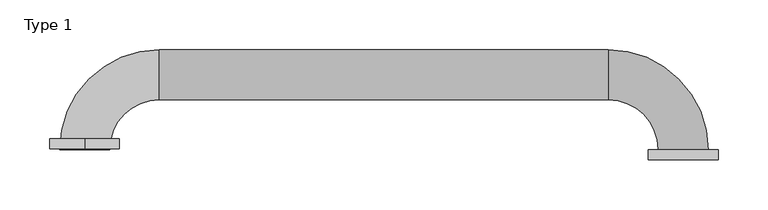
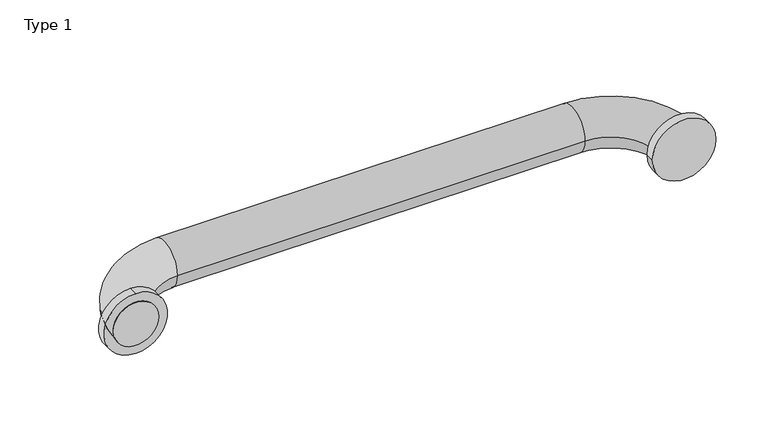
"""IFC4 building model written with IfcOpenShell, lengths in millimetres: proxy geometry, BIMHealth-Grab_Rail_Horizontal-LOD2A-v1 : Type 1."""

from ifc_helpers import new_model, si_unit, point, frame, frame_2d, origin, place, context, project, spatial, circle_curve, ellipse_curve, trimmed, segment, composite_curve, outline, extrude, source, transform, mapped, element, save
from ifc_brep_helpers import plane_surface, cylinder_surface, revolved_surface, advanced_brep


def type_1_5029713c(model_context):
    return source(origin(), model_context, "Body", "SolidModel", [
        advanced_brep(
        [(-100.0, 160.0, 680.0), (-100.0, 110.0, 680.0), (350.0, 110.0, 680.0), (350.0, 160.0, 680.0), (-150.0, 60.0, 680.0), (-200.0, 60.0, 680.0), (400.0, 60.0, 680.0), (450.0, 60.0, 680.0)],
        [
            (0, 1, circle_curve(frame((-100.0, 135.0, 680.0), z_axis=(1.0, 0.0, 0.0), x_axis=(0.0, 1.0, 0.0)), 25.0)),
            (1, 2),
            (2, 3, circle_curve(frame((350.0, 135.0, 680.0), z_axis=(-1.0, 0.0, 0.0), x_axis=(0.0, 1.0, 0.0)), 25.0)),
            (3, 0),
            (1, 0, circle_curve(frame((-100.0, 135.0, 680.0), z_axis=(1.0, 0.0, 0.0), x_axis=(0.0, 1.0, 0.0)), 25.0)),
            (3, 2, circle_curve(frame((350.0, 135.0, 680.0), z_axis=(-1.0, 0.0, 0.0), x_axis=(0.0, 1.0, 0.0)), 25.0)),
            (4, 5, circle_curve(frame((-175.0, 60.0, 680.0), z_axis=(0.0, -1.0, 0.0), x_axis=(-1.0, 0.0, 0.0)), 25.0)),
            (5, 4, circle_curve(frame((-175.0, 60.0, 680.0), z_axis=(0.0, -1.0, 0.0), x_axis=(-1.0, 0.0, 0.0)), 25.0)),
            (0, 5, circle_curve(frame((-100.0, 60.0, 680.0), z_axis=(0.0, 0.0, 1.0), x_axis=(-1.0, 0.0, 0.0)), 100.0)),
            (4, 1, circle_curve(frame((-100.0, 60.0, 680.0), z_axis=(0.0, 0.0, -1.0), x_axis=(-1.0, 0.0, 0.0)), 50.0)),
            (6, 7, circle_curve(frame((425.0, 60.0, 680.0), z_axis=(0.0, -1.0, 0.0), x_axis=(1.0, 0.0, 0.0)), 25.0)),
            (7, 6, circle_curve(frame((425.0, 60.0, 680.0), z_axis=(0.0, -1.0, 0.0), x_axis=(1.0, 0.0, 0.0)), 25.0)),
            (7, 3, circle_curve(frame((350.0, 60.0, 680.0), z_axis=(0.0, 0.0, 1.0), x_axis=(0.0, 1.0, 0.0)), 100.0)),
            (2, 6, circle_curve(frame((350.0, 60.0, 680.0), z_axis=(0.0, 0.0, -1.0), x_axis=(0.0, 1.0, 0.0)), 50.0)),
        ],
        [
            cylinder_surface(frame((-100.0, 135.0, 680.0), z_axis=(-1.0, 0.0, 0.0), x_axis=(0.0, 1.0, 0.0)), 25.0),
            plane_surface(frame((-175.0, 60.0, 680.0), z_axis=(0.0, -1.0, 0.0), x_axis=(0.0, 0.0, 1.0))),
            revolved_surface(trimmed(ellipse_curve(frame((-175.0, 60.0, 680.0), z_axis=(0.0, -1.0, 0.0), x_axis=(-1.0, 0.0, 0.0)), 25.0, 25.0), [point((-150.0, 60.0, 680.0))], [point((-200.0, 60.0, 680.0))], True, "CARTESIAN"), (-100.0, 60.0, 680.0), (0.0, 0.0, -1.0)),
            revolved_surface(trimmed(ellipse_curve(frame((-175.0, 60.0, 680.0), z_axis=(0.0, -1.0, 0.0), x_axis=(-1.0, 0.0, 0.0)), 25.0, 25.0), [point((-200.0, 60.0, 680.0))], [point((-150.0, 60.0, 680.0))], True, "CARTESIAN"), (-100.0, 60.0, 680.0), (0.0, 0.0, -1.0)),
            plane_surface(frame((425.0, 60.0, 680.0), z_axis=(0.0, -1.0, 0.0), x_axis=(0.0, 0.0, 1.0))),
            revolved_surface(trimmed(ellipse_curve(frame((350.0, 135.0, 680.0), z_axis=(-1.0, 0.0, 0.0), x_axis=(0.0, 1.0, 0.0)), 25.0, 25.0), [point((350.0, 110.0, 680.0))], [point((350.0, 160.0, 680.0))], True, "CARTESIAN"), (350.0, 60.0, 680.0), (0.0, 0.0, -1.0)),
            revolved_surface(trimmed(ellipse_curve(frame((350.0, 135.0, 680.0), z_axis=(-1.0, 0.0, 0.0), x_axis=(0.0, 1.0, 0.0)), 25.0, 25.0), [point((350.0, 160.0, 680.0))], [point((350.0, 110.0, 680.0))], True, "CARTESIAN"), (350.0, 60.0, 680.0), (0.0, 0.0, -1.0)),
        ],
        [
            (0, [[1, 2, 3, 4]]),
            (0, [[5, -4, 6, -2]]),
            (1, [[7, 8]]),
            (2, [[9, -7, 10, -1]]),
            (3, [[-10, -8, -9, -5]]),
            (4, [[11, 12]]),
            (5, [[13, -3, 14, -12]]),
            (6, [[-14, -6, -13, -11]]),
        ],
    ),
        extrude(outline(composite_curve([segment(trimmed(circle_curve(frame_2d((680.0, 425.0)), 35.0), [point((680.0, 460.0))], [point((680.0, 390.0))], False, "CARTESIAN"), True, "CONTINUOUS"), segment(trimmed(circle_curve(frame_2d((680.0, 425.0)), 35.0), [point((680.0, 390.0))], [point((680.0, 460.0))], False, "CARTESIAN"), True, "CONTINUOUS")], self_intersect=False)), frame((0.0, 50.0, 0.0), z_axis=(0.0, 1.0, 0.0), x_axis=(0.0, 0.0, 1.0)), (0.0, 0.0, 1.0), 10.0),
        extrude(outline(composite_curve([segment(trimmed(circle_curve(frame_2d((680.0, -175.0)), 35.0), [point((715.0, -175.0))], [point((645.0, -175.0))], False, "CARTESIAN"), True, "CONTINUOUS"), segment(trimmed(circle_curve(frame_2d((680.0, -175.0)), 35.0), [point((645.0, -175.0))], [point((715.0, -175.0))], False, "CARTESIAN"), True, "CONTINUOUS")], self_intersect=False)), frame((0.0, 60.75, 0.0), z_axis=(0.0, 1.0, 0.0), x_axis=(0.0, 0.0, 1.0)), (0.0, 0.0, 1.0), 10.0),
    ])


if __name__ == "__main__":
    model = new_model("IFC4")
    model_context = context("Model", 3, world=origin())
    ifc_project = project(units=[si_unit("LENGTHUNIT", "METRE", prefix="MILLI")], contexts=[model_context])
    site = spatial("IfcSite", under=ifc_project)
    building = spatial("IfcBuilding", under=site)
    placement = place(None, origin())
    type_1_shape = type_1_5029713c(model_context)
    element("IfcBuildingElementProxy", 1, Name="BIMHealth-Grab_Rail_Horizontal-LOD2A-v1 : Type 1", ObjectType="BIMHealth-Grab_Rail_Horizontal-LOD2A-v1 : Type 1", at=placement, inside=building, context=model_context, shape_type="MappedRepresentation", body=[
        mapped(type_1_shape, transform((0.0, 0.0, 0.0), x_axis=(1.0, 0.0, 0.0), y_axis=(0.0, 1.0, 0.0), z_axis=(0.0, 0.0, 1.0))),
    ])
    save(model, "model.ifc")
